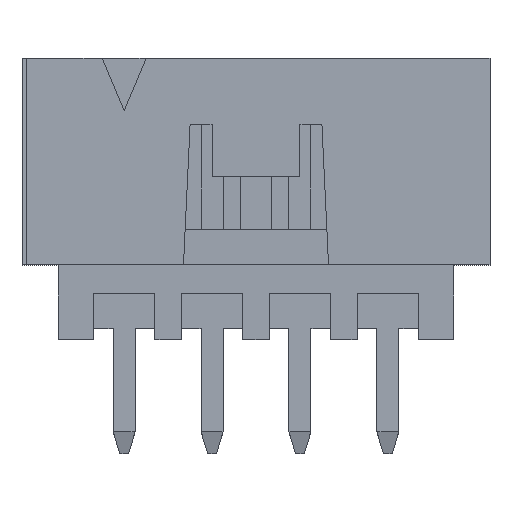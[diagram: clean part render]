
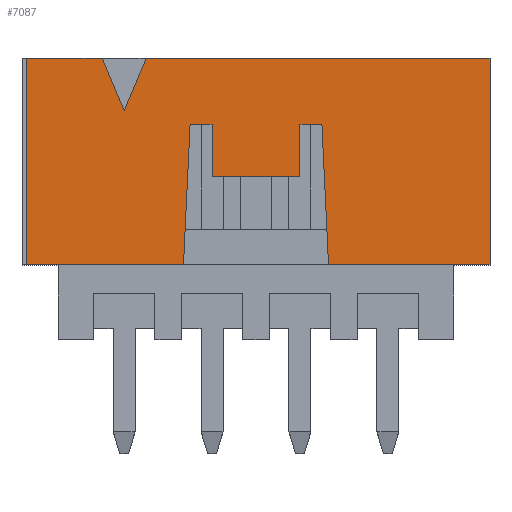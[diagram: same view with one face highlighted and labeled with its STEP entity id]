
A CAD part, top view. The second image highlights one B-rep face of the part: STEP entity #7087.
In plain terms, the highlighted planar face has unit normal (0, 0, 1).
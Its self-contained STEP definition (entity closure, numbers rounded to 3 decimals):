
#329=DIRECTION('',(0.,1.,0.));
#330=VECTOR('',#329,4.7);
#331=CARTESIAN_POINT('',(-5.225,1.7,3.15));
#332=LINE('',#331,#330);
#333=DIRECTION('',(1.,0.,0.));
#334=VECTOR('',#333,1.725);
#335=CARTESIAN_POINT('',(-5.225,6.4,3.15));
#336=LINE('',#335,#334);
#337=DIRECTION('',(0.385,-0.923,0.));
#338=VECTOR('',#337,1.3);
#339=CARTESIAN_POINT('',(-3.5,6.4,3.15));
#340=LINE('',#339,#338);
#341=DIRECTION('',(0.385,0.923,0.));
#342=VECTOR('',#341,1.3);
#343=CARTESIAN_POINT('',(-3.,5.2,3.15));
#344=LINE('',#343,#342);
#345=DIRECTION('',(1.,0.,0.));
#346=VECTOR('',#345,7.825);
#347=CARTESIAN_POINT('',(-2.5,6.4,3.15));
#348=LINE('',#347,#346);
#349=DIRECTION('',(0.,-1.,0.));
#350=VECTOR('',#349,4.7);
#351=CARTESIAN_POINT('',(5.325,6.4,3.15));
#352=LINE('',#351,#350);
#353=DIRECTION('',(-1.,0.,0.));
#354=VECTOR('',#353,3.675);
#355=CARTESIAN_POINT('',(5.325,1.7,3.15));
#356=LINE('',#355,#354);
#357=DIRECTION('',(-0.047,0.999,0.));
#358=VECTOR('',#357,3.204);
#359=CARTESIAN_POINT('',(1.65,1.7,3.15));
#360=LINE('',#359,#358);
#361=DIRECTION('',(0.,-1.,0.));
#362=VECTOR('',#361,1.2);
#363=CARTESIAN_POINT('',(1.,4.9,3.15));
#364=LINE('',#363,#362);
#365=DIRECTION('',(0.,1.,0.));
#366=VECTOR('',#365,1.2);
#367=CARTESIAN_POINT('',(-1.,3.7,3.15));
#368=LINE('',#367,#366);
#369=DIRECTION('',(-1.,0.,0.));
#370=VECTOR('',#369,0.5);
#371=CARTESIAN_POINT('',(-1.,4.9,3.15));
#372=LINE('',#371,#370);
#373=DIRECTION('',(-0.047,-0.999,0.));
#374=VECTOR('',#373,3.204);
#375=CARTESIAN_POINT('',(-1.5,4.9,3.15));
#376=LINE('',#375,#374);
#377=DIRECTION('',(-1.,0.,0.));
#378=VECTOR('',#377,3.575);
#379=CARTESIAN_POINT('',(-1.65,1.7,3.15));
#380=LINE('',#379,#378);
#469=DIRECTION('',(1.,0.,0.));
#470=VECTOR('',#469,2.);
#471=CARTESIAN_POINT('',(-1.,3.7,3.15));
#472=LINE('',#471,#470);
#501=DIRECTION('',(1.,0.,0.));
#502=VECTOR('',#501,0.5);
#503=CARTESIAN_POINT('',(1.,4.9,3.15));
#504=LINE('',#503,#502);
#4827=CARTESIAN_POINT('',(-5.225,1.7,3.15));
#4829=VERTEX_POINT('',#4827);
#4831=CARTESIAN_POINT('',(1.65,1.7,3.15));
#4833=VERTEX_POINT('',#4831);
#4841=CARTESIAN_POINT('',(-5.225,6.4,3.15));
#4843=VERTEX_POINT('',#4841);
#4867=CARTESIAN_POINT('',(5.325,6.4,3.15));
#4868=VERTEX_POINT('',#4867);
#4869=CARTESIAN_POINT('',(-2.5,6.4,3.15));
#4870=VERTEX_POINT('',#4869);
#4875=CARTESIAN_POINT('',(-3.5,6.4,3.15));
#4876=VERTEX_POINT('',#4875);
#4885=CARTESIAN_POINT('',(5.325,1.7,3.15));
#4886=VERTEX_POINT('',#4885);
#5088=CARTESIAN_POINT('',(-1.65,1.7,3.15));
#5090=VERTEX_POINT('',#5088);
#5092=CARTESIAN_POINT('',(-1.5,4.9,3.15));
#5094=VERTEX_POINT('',#5092);
#5095=CARTESIAN_POINT('',(-1.,4.9,3.15));
#5096=VERTEX_POINT('',#5095);
#5115=CARTESIAN_POINT('',(1.,3.7,3.15));
#5116=VERTEX_POINT('',#5115);
#5117=CARTESIAN_POINT('',(1.,4.9,3.15));
#5118=VERTEX_POINT('',#5117);
#5119=CARTESIAN_POINT('',(-1.,3.7,3.15));
#5120=VERTEX_POINT('',#5119);
#5123=CARTESIAN_POINT('',(-3.,5.2,3.15));
#5124=VERTEX_POINT('',#5123);
#5125=CARTESIAN_POINT('',(1.5,4.9,3.15));
#5126=VERTEX_POINT('',#5125);
#7054=CARTESIAN_POINT('',(0.05,4.05,3.15));
#7055=DIRECTION('',(0.,0.,1.));
#7056=DIRECTION('',(1.,0.,0.));
#7057=AXIS2_PLACEMENT_3D('',#7054,#7055,#7056);
#7058=PLANE('',#7057);
#7059=ORIENTED_EDGE('',*,*,#7045,.T.);
#7060=ORIENTED_EDGE('',*,*,#7034,.T.);
#7062=ORIENTED_EDGE('',*,*,#7061,.T.);
#7064=ORIENTED_EDGE('',*,*,#7063,.T.);
#7065=ORIENTED_EDGE('',*,*,#7026,.T.);
#7066=ORIENTED_EDGE('',*,*,#6985,.T.);
#7068=ORIENTED_EDGE('',*,*,#7067,.T.);
#7070=ORIENTED_EDGE('',*,*,#7069,.T.);
#7072=ORIENTED_EDGE('',*,*,#7071,.F.);
#7074=ORIENTED_EDGE('',*,*,#7073,.T.);
#7076=ORIENTED_EDGE('',*,*,#7075,.F.);
#7078=ORIENTED_EDGE('',*,*,#7077,.T.);
#7080=ORIENTED_EDGE('',*,*,#7079,.T.);
#7082=ORIENTED_EDGE('',*,*,#7081,.T.);
#7084=ORIENTED_EDGE('',*,*,#7083,.T.);
#7085=EDGE_LOOP('',(#7059,#7060,#7062,#7064,#7065,#7066,#7068,#7070,#7072,#7074,
#7076,#7078,#7080,#7082,#7084));
#7086=FACE_OUTER_BOUND('',#7085,.F.);
#7087=ADVANCED_FACE('',(#7086),#7058,.T.);
#6985=EDGE_CURVE('',#4868,#4886,#352,.T.);
#7026=EDGE_CURVE('',#4870,#4868,#348,.T.);
#7034=EDGE_CURVE('',#4843,#4876,#336,.T.);
#7045=EDGE_CURVE('',#4829,#4843,#332,.T.);
#7061=EDGE_CURVE('',#4876,#5124,#340,.T.);
#7063=EDGE_CURVE('',#5124,#4870,#344,.T.);
#7067=EDGE_CURVE('',#4886,#4833,#356,.T.);
#7069=EDGE_CURVE('',#4833,#5126,#360,.T.);
#7071=EDGE_CURVE('',#5118,#5126,#504,.T.);
#7073=EDGE_CURVE('',#5118,#5116,#364,.T.);
#7075=EDGE_CURVE('',#5120,#5116,#472,.T.);
#7077=EDGE_CURVE('',#5120,#5096,#368,.T.);
#7079=EDGE_CURVE('',#5096,#5094,#372,.T.);
#7081=EDGE_CURVE('',#5094,#5090,#376,.T.);
#7083=EDGE_CURVE('',#5090,#4829,#380,.T.);
